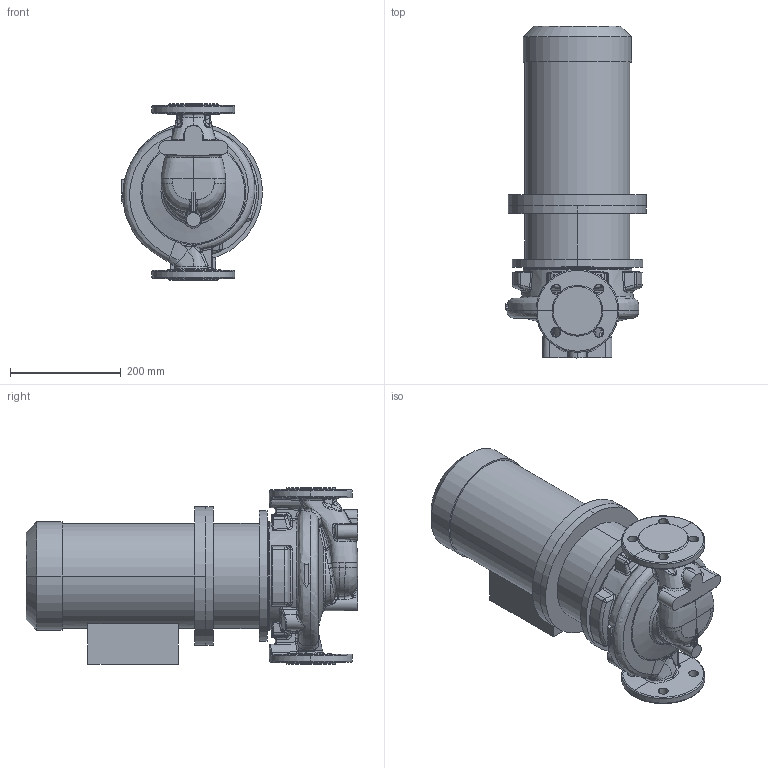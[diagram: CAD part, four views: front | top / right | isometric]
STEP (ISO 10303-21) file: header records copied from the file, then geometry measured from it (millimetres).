
FILE_DESCRIPTION (( 'STEP AP214' ), '1' );
FILE_NAME ('KRL 40-160-2-3.STEP', '2026-03-18T06:33:06', ( '' ), ( '' ), 'SwSTEP 2.0', 'SolidWorks 2016', '' );
FILE_SCHEMA (( 'AUTOMOTIVE_DESIGN' ));
Length unit declared in the file: millimetre
Products named in the file (1): KRL 40-160-2-3
Bounding box: 255 x 600.3 x 320 mm (x, y, z)
Volume: 20150629 mm3; surface area: 905667 mm2
Topology: 4 solids, 4 shells, 713 faces, 1716 edges, 1000 vertices
Faces by surface type: bspline 353, cylinder 126, plane 97, torus 52, cone 45, sphere 40
Entity records: 82362 total; most frequent: CARTESIAN_POINT 60963, ORIENTED_EDGE 3374, DIRECTION 2051, EDGE_CURVE 1687, VERTEX_POINT 1000, AXIS2_PLACEMENT_3D 902, B_SPLINE_CURVE_WITH_KNOTS 828, EDGE_LOOP 747
